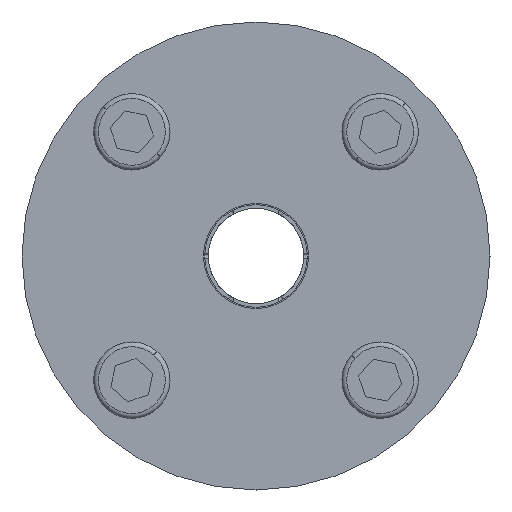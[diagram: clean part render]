
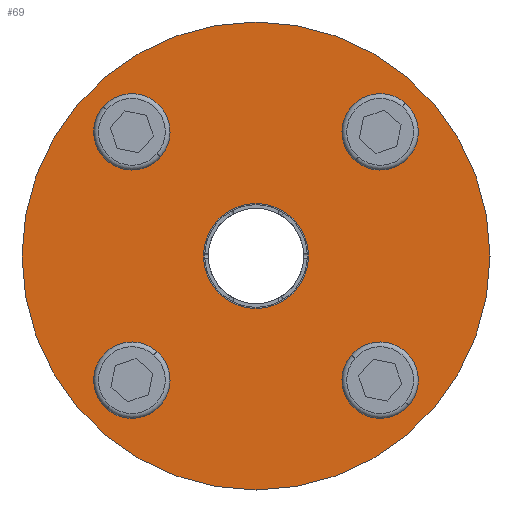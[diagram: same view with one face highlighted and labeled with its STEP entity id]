
A CAD part, front view. The second image highlights one B-rep face of the part: STEP entity #69.
In plain terms, the highlighted planar face has unit normal (0, -1, 0).
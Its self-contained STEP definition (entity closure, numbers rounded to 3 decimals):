
#69 = ADVANCED_FACE ( 'NONE', ( #1202, #13303, #14960, #5428, #2358, #7074 ), #4017, .F. ) ;
#149 = CIRCLE ( 'NONE', #19324, 6. ) ;
#630 = AXIS2_PLACEMENT_3D ( 'NONE', #10909, #7757, #11222 ) ;
#695 = CIRCLE ( 'NONE', #19835, 6. ) ;
#955 = AXIS2_PLACEMENT_3D ( 'NONE', #4715, #3376, #11019 ) ;
#1202 = FACE_BOUND ( 'NONE', #18399, .T. ) ;
#1209 = ORIENTED_EDGE ( 'NONE', *, *, #14922, .F. ) ;
#1218 = DIRECTION ( 'NONE',  ( 0., -1., 0. ) ) ;
#1965 = CIRCLE ( 'NONE', #955, 49. ) ;
#2043 = DIRECTION ( 'NONE',  ( 0., 0., -1. ) ) ;
#2129 = VERTEX_POINT ( 'NONE', #3037 ) ;
#2229 = DIRECTION ( 'NONE',  ( 0., 0., -1. ) ) ;
#2296 = DIRECTION ( 'NONE',  ( 0., 0., -1. ) ) ;
#2358 = FACE_BOUND ( 'NONE', #3331, .T. ) ;
#2371 = CARTESIAN_POINT ( 'NONE',  ( 26., 0., 32. ) ) ;
#2419 = CARTESIAN_POINT ( 'NONE',  ( -26., 0., -26. ) ) ;
#2533 = CARTESIAN_POINT ( 'NONE',  ( 0., 0., -11. ) ) ;
#2650 = ORIENTED_EDGE ( 'NONE', *, *, #12960, .F. ) ;
#2891 = AXIS2_PLACEMENT_3D ( 'NONE', #18699, #9594, #17034 ) ;
#2900 = CARTESIAN_POINT ( 'NONE',  ( -26., 0., 20. ) ) ;
#3037 = CARTESIAN_POINT ( 'NONE',  ( 26., 0., -20. ) ) ;
#3143 = VERTEX_POINT ( 'NONE', #12600 ) ;
#3301 = CIRCLE ( 'NONE', #630, 6. ) ;
#3313 = AXIS2_PLACEMENT_3D ( 'NONE', #12334, #7435, #18557 ) ;
#3331 = EDGE_LOOP ( 'NONE', ( #1209, #9455 ) ) ;
#3376 = DIRECTION ( 'NONE',  ( 0., -1., 0. ) ) ;
#3831 = CARTESIAN_POINT ( 'NONE',  ( 0., 0., 49. ) ) ;
#3854 = AXIS2_PLACEMENT_3D ( 'NONE', #18517, #18410, #10543 ) ;
#4017 = PLANE ( 'NONE',  #2891 ) ;
#4309 = VERTEX_POINT ( 'NONE', #17448 ) ;
#4458 = AXIS2_PLACEMENT_3D ( 'NONE', #6135, #12444, #6041 ) ;
#4632 = CIRCLE ( 'NONE', #3313, 6. ) ;
#4715 = CARTESIAN_POINT ( 'NONE',  ( 0., 0., 0. ) ) ;
#5266 = DIRECTION ( 'NONE',  ( 0., -1., 0. ) ) ;
#5428 = FACE_BOUND ( 'NONE', #14256, .T. ) ;
#5468 = AXIS2_PLACEMENT_3D ( 'NONE', #13134, #5266, #11591 ) ;
#6041 = DIRECTION ( 'NONE',  ( 0., 0., -1. ) ) ;
#6085 = CARTESIAN_POINT ( 'NONE',  ( 0., 0., -49. ) ) ;
#6135 = CARTESIAN_POINT ( 'NONE',  ( 0., 0., 0. ) ) ;
#6287 = EDGE_LOOP ( 'NONE', ( #2650, #14249 ) ) ;
#6303 = CARTESIAN_POINT ( 'NONE',  ( 0., 0., 11. ) ) ;
#6941 = ORIENTED_EDGE ( 'NONE', *, *, #13946, .F. ) ;
#7074 = FACE_OUTER_BOUND ( 'NONE', #10236, .T. ) ;
#7167 = DIRECTION ( 'NONE',  ( 0., -1., 0. ) ) ;
#7391 = CARTESIAN_POINT ( 'NONE',  ( 0., 0., 0. ) ) ;
#7435 = DIRECTION ( 'NONE',  ( 0., -1., 0. ) ) ;
#7724 = CIRCLE ( 'NONE', #4458, 11. ) ;
#7757 = DIRECTION ( 'NONE',  ( 0., -1., 0. ) ) ;
#8190 = AXIS2_PLACEMENT_3D ( 'NONE', #10182, #14936, #2229 ) ;
#8308 = CIRCLE ( 'NONE', #10313, 11. ) ;
#8686 = CIRCLE ( 'NONE', #16323, 6. ) ;
#9041 = VERTEX_POINT ( 'NONE', #11771 ) ;
#9275 = EDGE_CURVE ( 'NONE', #4309, #9041, #695, .T. ) ;
#9357 = ORIENTED_EDGE ( 'NONE', *, *, #17877, .F. ) ;
#9455 = ORIENTED_EDGE ( 'NONE', *, *, #14769, .F. ) ;
#9594 = DIRECTION ( 'NONE',  ( 0., 1., 0. ) ) ;
#9778 = CIRCLE ( 'NONE', #5468, 6. ) ;
#9960 = CARTESIAN_POINT ( 'NONE',  ( -26., 0., 26. ) ) ;
#10182 = CARTESIAN_POINT ( 'NONE',  ( 26., 0., 26. ) ) ;
#10236 = EDGE_LOOP ( 'NONE', ( #19180, #19588 ) ) ;
#10313 = AXIS2_PLACEMENT_3D ( 'NONE', #7391, #1218, #11979 ) ;
#10382 = VERTEX_POINT ( 'NONE', #2900 ) ;
#10543 = DIRECTION ( 'NONE',  ( 0., 0., -1. ) ) ;
#10842 = ORIENTED_EDGE ( 'NONE', *, *, #9275, .F. ) ;
#10909 = CARTESIAN_POINT ( 'NONE',  ( 26., 0., 26. ) ) ;
#11019 = DIRECTION ( 'NONE',  ( 0., 0., -1. ) ) ;
#11048 = CARTESIAN_POINT ( 'NONE',  ( -26., 0., -26. ) ) ;
#11157 = DIRECTION ( 'NONE',  ( 0., 0., -1. ) ) ;
#11222 = DIRECTION ( 'NONE',  ( 0., 0., -1. ) ) ;
#11591 = DIRECTION ( 'NONE',  ( 0., 0., -1. ) ) ;
#11687 = CIRCLE ( 'NONE', #13309, 49. ) ;
#11771 = CARTESIAN_POINT ( 'NONE',  ( -26., 0., -32. ) ) ;
#11856 = CARTESIAN_POINT ( 'NONE',  ( 0., 0., 0. ) ) ;
#11979 = DIRECTION ( 'NONE',  ( 0., 0., -1. ) ) ;
#11990 = VERTEX_POINT ( 'NONE', #6085 ) ;
#12086 = CARTESIAN_POINT ( 'NONE',  ( 26., 0., -32. ) ) ;
#12157 = EDGE_CURVE ( 'NONE', #11990, #16193, #11687, .T. ) ;
#12334 = CARTESIAN_POINT ( 'NONE',  ( -26., 0., 26. ) ) ;
#12444 = DIRECTION ( 'NONE',  ( 0., -1., 0. ) ) ;
#12600 = CARTESIAN_POINT ( 'NONE',  ( -26., 0., 32. ) ) ;
#12643 = EDGE_CURVE ( 'NONE', #9041, #4309, #8686, .T. ) ;
#12960 = EDGE_CURVE ( 'NONE', #10382, #3143, #149, .T. ) ;
#13001 = ORIENTED_EDGE ( 'NONE', *, *, #18247, .F. ) ;
#13134 = CARTESIAN_POINT ( 'NONE',  ( 26., 0., -26. ) ) ;
#13303 = FACE_BOUND ( 'NONE', #6287, .T. ) ;
#13309 = AXIS2_PLACEMENT_3D ( 'NONE', #11856, #7167, #2043 ) ;
#13678 = DIRECTION ( 'NONE',  ( 0., -1., 0. ) ) ;
#13863 = EDGE_CURVE ( 'NONE', #2129, #13933, #9778, .T. ) ;
#13894 = ORIENTED_EDGE ( 'NONE', *, *, #12643, .F. ) ;
#13933 = VERTEX_POINT ( 'NONE', #12086 ) ;
#13946 = EDGE_CURVE ( 'NONE', #13933, #2129, #17066, .T. ) ;
#14249 = ORIENTED_EDGE ( 'NONE', *, *, #16109, .F. ) ;
#14256 = EDGE_LOOP ( 'NONE', ( #6941, #15454 ) ) ;
#14716 = EDGE_LOOP ( 'NONE', ( #13894, #10842 ) ) ;
#14769 = EDGE_CURVE ( 'NONE', #17790, #17905, #17143, .T. ) ;
#14922 = EDGE_CURVE ( 'NONE', #17905, #17790, #3301, .T. ) ;
#14936 = DIRECTION ( 'NONE',  ( 0., -1., 0. ) ) ;
#14960 = FACE_BOUND ( 'NONE', #14716, .T. ) ;
#15454 = ORIENTED_EDGE ( 'NONE', *, *, #13863, .F. ) ;
#15792 = EDGE_CURVE ( 'NONE', #16193, #11990, #1965, .T. ) ;
#16109 = EDGE_CURVE ( 'NONE', #3143, #10382, #4632, .T. ) ;
#16193 = VERTEX_POINT ( 'NONE', #3831 ) ;
#16323 = AXIS2_PLACEMENT_3D ( 'NONE', #2419, #13678, #20210 ) ;
#16359 = DIRECTION ( 'NONE',  ( 0., -1., 0. ) ) ;
#16853 = CARTESIAN_POINT ( 'NONE',  ( 26., 0., 20. ) ) ;
#17034 = DIRECTION ( 'NONE',  ( 0., 0., 1. ) ) ;
#17066 = CIRCLE ( 'NONE', #3854, 6. ) ;
#17143 = CIRCLE ( 'NONE', #8190, 6. ) ;
#17448 = CARTESIAN_POINT ( 'NONE',  ( -26., 0., -20. ) ) ;
#17790 = VERTEX_POINT ( 'NONE', #2371 ) ;
#17877 = EDGE_CURVE ( 'NONE', #19524, #20142, #8308, .T. ) ;
#17905 = VERTEX_POINT ( 'NONE', #16853 ) ;
#18247 = EDGE_CURVE ( 'NONE', #20142, #19524, #7724, .T. ) ;
#18399 = EDGE_LOOP ( 'NONE', ( #13001, #9357 ) ) ;
#18410 = DIRECTION ( 'NONE',  ( 0., -1., 0. ) ) ;
#18517 = CARTESIAN_POINT ( 'NONE',  ( 26., 0., -26. ) ) ;
#18557 = DIRECTION ( 'NONE',  ( 0., 0., -1. ) ) ;
#18699 = CARTESIAN_POINT ( 'NONE',  ( 0., 0., 49. ) ) ;
#19180 = ORIENTED_EDGE ( 'NONE', *, *, #12157, .T. ) ;
#19324 = AXIS2_PLACEMENT_3D ( 'NONE', #9960, #16359, #2296 ) ;
#19524 = VERTEX_POINT ( 'NONE', #6303 ) ;
#19588 = ORIENTED_EDGE ( 'NONE', *, *, #15792, .T. ) ;
#19835 = AXIS2_PLACEMENT_3D ( 'NONE', #11048, #20365, #11157 ) ;
#20142 = VERTEX_POINT ( 'NONE', #2533 ) ;
#20210 = DIRECTION ( 'NONE',  ( 0., 0., -1. ) ) ;
#20365 = DIRECTION ( 'NONE',  ( 0., -1., 0. ) ) ;
